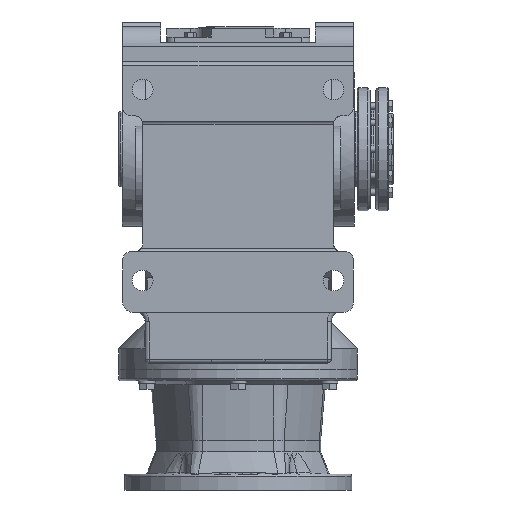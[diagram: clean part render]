
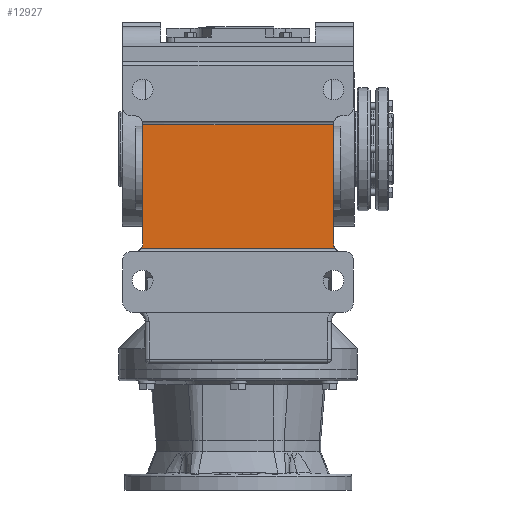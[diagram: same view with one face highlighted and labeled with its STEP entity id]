
A CAD part, front view. The second image highlights one B-rep face of the part: STEP entity #12927.
In plain terms, the highlighted planar face has unit normal (0, -1, 0).
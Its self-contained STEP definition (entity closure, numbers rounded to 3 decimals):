
#290 = AXIS2_PLACEMENT_3D ( 'NONE', #36731, #36730, #36735 ) ;
#1243 = AXIS2_PLACEMENT_3D ( 'NONE', #22652, #22654, #22656 ) ;
#1264 = AXIS2_PLACEMENT_3D ( 'NONE', #22970, #22971, #22972 ) ;
#9760 = EDGE_CURVE ( 'NONE', #17242, #62173, #46699, .T. ) ;
#12927 = ADVANCED_FACE ( 'NONE', ( #42836 ), #36733, .T. ) ;
#13472 = CARTESIAN_POINT ( 'NONE',  ( -120., -260., 31. ) ) ;
#13573 = CARTESIAN_POINT ( 'NONE',  ( 120., -260., 31. ) ) ;
#13626 = CARTESIAN_POINT ( 'NONE',  ( -122., -260., -125. ) ) ;
#13652 = CARTESIAN_POINT ( 'NONE',  ( -120., -260., -119. ) ) ;
#15340 = CIRCLE ( 'NONE', #1243, 10. ) ;
#15400 = CIRCLE ( 'NONE', #1264, 10. ) ;
#15682 = LINE ( 'NONE', #59058, #15684 ) ;
#15684 = VECTOR ( 'NONE', #59059, 1000. ) ;
#16951 = VERTEX_POINT ( 'NONE', #13472 ) ;
#17142 = VERTEX_POINT ( 'NONE', #13573 ) ;
#17242 = VERTEX_POINT ( 'NONE', #13626 ) ;
#17290 = VERTEX_POINT ( 'NONE', #13652 ) ;
#22652 = CARTESIAN_POINT ( 'NONE',  ( 130., -260., -119. ) ) ;
#22654 = DIRECTION ( 'NONE',  ( 0., 1., 0. ) ) ;
#22656 = DIRECTION ( 'NONE',  ( 0., 0., -1. ) ) ;
#22970 = CARTESIAN_POINT ( 'NONE',  ( -130., -260., -119. ) ) ;
#22971 = DIRECTION ( 'NONE',  ( 0., 1., 0. ) ) ;
#22972 = DIRECTION ( 'NONE',  ( 0., 0., -1. ) ) ;
#25400 = CARTESIAN_POINT ( 'NONE',  ( -145., -260., 31. ) ) ;
#25402 = DIRECTION ( 'NONE',  ( 1., 0., 0. ) ) ;
#26014 = CARTESIAN_POINT ( 'NONE',  ( 120., -260., -119. ) ) ;
#26754 = DIRECTION ( 'NONE',  ( 0., 0., 1. ) ) ;
#26757 = CARTESIAN_POINT ( 'NONE',  ( -120., -260., -125. ) ) ;
#28907 = LINE ( 'NONE', #26757, #28909 ) ;
#28909 = VECTOR ( 'NONE', #26754, 1000. ) ;
#29336 = LINE ( 'NONE', #25400, #29340 ) ;
#29340 = VECTOR ( 'NONE', #25402, 1000. ) ;
#29970 = VERTEX_POINT ( 'NONE', #26014 ) ;
#31636 = CARTESIAN_POINT ( 'NONE',  ( 122., -260., -125. ) ) ;
#36730 = DIRECTION ( 'NONE',  ( 0., -1., 0. ) ) ;
#36731 = CARTESIAN_POINT ( 'NONE',  ( -145., -260., 31. ) ) ;
#36733 = PLANE ( 'NONE',  #290 ) ;
#36735 = DIRECTION ( 'NONE',  ( 0., 0., -1. ) ) ;
#39214 = EDGE_CURVE ( 'NONE', #17290, #16951, #28907, .T. ) ;
#39650 = EDGE_CURVE ( 'NONE', #16951, #17142, #29336, .T. ) ;
#39805 = EDGE_CURVE ( 'NONE', #62173, #29970, #15340, .T. ) ;
#39848 = EDGE_CURVE ( 'NONE', #17290, #17242, #15400, .T. ) ;
#40036 = EDGE_CURVE ( 'NONE', #17142, #29970, #15682, .T. ) ;
#42836 = FACE_OUTER_BOUND ( 'NONE', #59752, .T. ) ;
#46699 = LINE ( 'NONE', #47624, #46709 ) ;
#46709 = VECTOR ( 'NONE', #47617, 1000. ) ;
#47617 = DIRECTION ( 'NONE',  ( 1., 0., 0. ) ) ;
#47624 = CARTESIAN_POINT ( 'NONE',  ( -145., -260., -125. ) ) ;
#55411 = ORIENTED_EDGE ( 'NONE', *, *, #39805, .T. ) ;
#55412 = ORIENTED_EDGE ( 'NONE', *, *, #9760, .T. ) ;
#55434 = ORIENTED_EDGE ( 'NONE', *, *, #39650, .F. ) ;
#55658 = ORIENTED_EDGE ( 'NONE', *, *, #39214, .F. ) ;
#55676 = ORIENTED_EDGE ( 'NONE', *, *, #40036, .F. ) ;
#55694 = ORIENTED_EDGE ( 'NONE', *, *, #39848, .T. ) ;
#59058 = CARTESIAN_POINT ( 'NONE',  ( 120., -260., 31. ) ) ;
#59059 = DIRECTION ( 'NONE',  ( 0., 0., -1. ) ) ;
#59752 = EDGE_LOOP ( 'NONE', ( #55434, #55658, #55694, #55412, #55411, #55676 ) ) ;
#62173 = VERTEX_POINT ( 'NONE', #31636 ) ;
